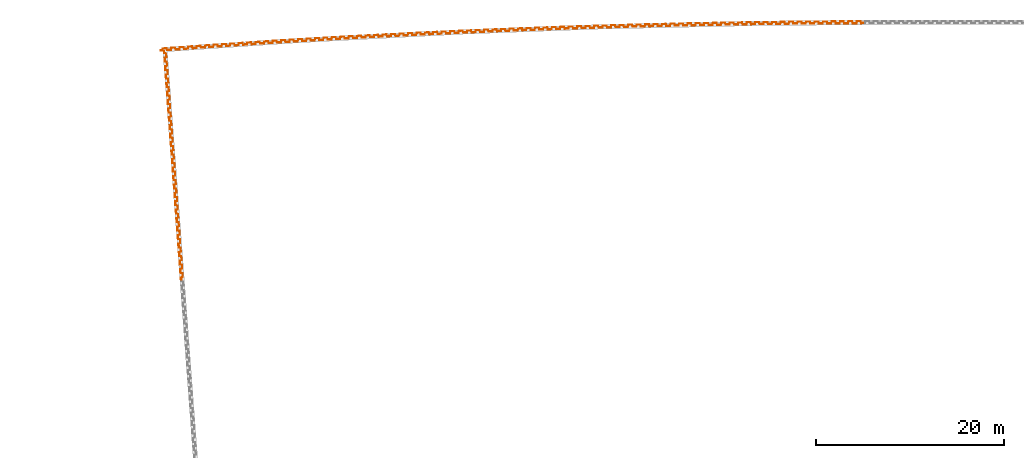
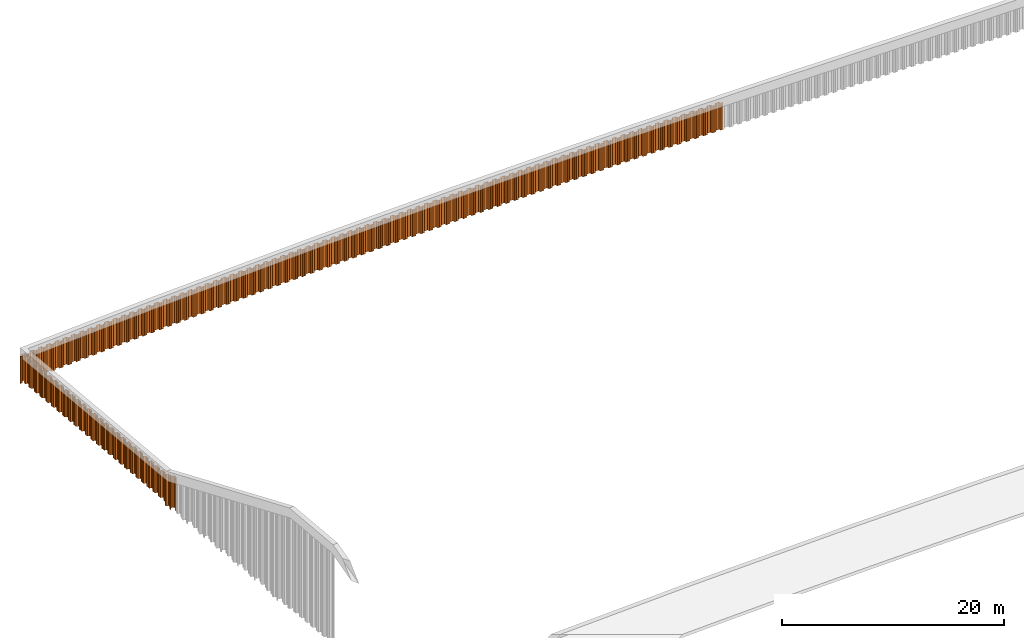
# One storey, part 8 of 15: 110 proxies.
"""IFC2X3 building model written with IfcOpenShell, lengths in millimetres."""

import ifcopenshell
import ifcopenshell.guid

model = None  # the IFC model being written
_history = None  # IfcOwnerHistory: only IFC2X3 demands one
_inside = {}  # id of a spatial element -> (the spatial element, [elements in it])
_under = {}  # id of a project, library or spatial element -> (it, [spatial elements below it])
_declared = {}  # id of a project -> (the project, [libraries it declares])
_typed = {}  # id of a type object -> (the type object, [elements of that type])
_made_of = {}  # id of a material, layer set ... -> (it, [elements and type objects made of it])


def new_model(schema):
    """Start an empty IFC model of exactly this schema.

    Asked for "IFC4X3", IfcOpenShell would pick the latest addendum, in which some entities
    have other attributes; the version numbers below select the first issue.
    IFC2X3 requires an IfcOwnerHistory on every rooted entity: one is made here for all.
    """
    global model, _history
    if schema == "IFC4X3":
        model = ifcopenshell.file(schema_version=(4, 3, 0, 0))
    else:
        model = ifcopenshell.file(schema=schema)
    _inside.clear()
    _under.clear()
    _declared.clear()
    _typed.clear()
    _made_of.clear()
    _history = None
    if model.schema == "IFC2X3":
        org = make("IfcOrganization", Name="unknown")
        user = make(
            "IfcPersonAndOrganization",
            ThePerson=make("IfcPerson", FamilyName="unknown"),
            TheOrganization=org,
        )
        app = make(
            "IfcApplication",
            ApplicationDeveloper=org,
            Version="unknown",
            ApplicationFullName="unknown",
            ApplicationIdentifier="unknown",
        )
        _history = make(
            "IfcOwnerHistory",
            OwningUser=user,
            OwningApplication=app,
            ChangeAction="ADDED",
            CreationDate=0,
        )
    return model


def make(cls, **values):
    """One entity of the class cls with the attributes given. An attribute that is None is left unset."""
    return model.create_entity(
        cls, **{name: value for name, value in values.items() if value is not None}
    )


def entity(cls, *values):
    """Any entity or typed value of the class cls, its attributes in the order of the schema. None: left unset."""
    e = model.create_entity(cls)
    for i, value in enumerate(values):
        if value is not None:
            e[i] = value
    return e


def rooted(cls, **values):
    """An entity with a GlobalId (a new one), such as an element, a storey or a relation."""
    return make(cls, GlobalId=ifcopenshell.guid.new(), OwnerHistory=_history, **values)


def si_unit(unit_type, name, prefix=None):
    """IfcSIUnit, for example si_unit("LENGTHUNIT", "METRE", prefix="MILLI")."""
    return make("IfcSIUnit", UnitType=unit_type, Prefix=prefix, Name=name)


def converted_unit(unit_type, name, factor, base, dimensions=None, offset=None):
    """IfcConversionBasedUnit, such as the inch: factor (a typed value) times the base unit."""
    return make(
        "IfcConversionBasedUnit"
        if offset is None
        else "IfcConversionBasedUnitWithOffset",
        ConversionOffset=offset,
        Dimensions=None
        if dimensions is None
        else entity("IfcDimensionalExponents", *dimensions),
        UnitType=unit_type,
        Name=name,
        ConversionFactor=make(
            "IfcMeasureWithUnit", ValueComponent=factor, UnitComponent=base
        ),
    )


def derived_unit(unit_type, elements):
    """IfcDerivedUnit: a product of units, each with its exponent."""
    return make(
        "IfcDerivedUnit",
        Elements=[
            make("IfcDerivedUnitElement", Unit=unit, Exponent=power)
            for unit, power in elements
        ],
        UnitType=unit_type,
    )


def assignment(units):
    """IfcUnitAssignment: the units of a project."""
    return None if units is None else make("IfcUnitAssignment", Units=units)


def point(xyz):
    """IfcCartesianPoint."""
    return None if xyz is None else make("IfcCartesianPoint", Coordinates=xyz)


def direction(xyz):
    """IfcDirection."""
    return None if xyz is None else make("IfcDirection", DirectionRatios=xyz)


def frame(location, z_axis=None, x_axis=None):
    """IfcAxis2Placement3D, a coordinate frame: its origin and axes. An axis left out is left unset."""
    return make(
        "IfcAxis2Placement3D",
        Location=point(location),
        Axis=direction(z_axis),
        RefDirection=direction(x_axis),
    )


def frame_2d(location, x_axis=None):
    """IfcAxis2Placement2D, a coordinate frame in the plane: its origin and x axis."""
    return make(
        "IfcAxis2Placement2D", Location=point(location), RefDirection=direction(x_axis)
    )


def origin():
    """The frame at (0, 0, 0) with its axes left unset."""
    return frame((0.0, 0.0, 0.0))


def place(relative_to, where):
    """IfcLocalPlacement: puts the frame where relative to a parent placement (None: the world)."""
    return make(
        "IfcLocalPlacement", PlacementRelTo=relative_to, RelativePlacement=where
    )


def context(
    kind, dimensions, precision=None, world=None, true_north=None, identifier=None
):
    """IfcGeometricRepresentationContext, for example the 3D "Model" context."""
    return make(
        "IfcGeometricRepresentationContext",
        ContextIdentifier=identifier,
        ContextType=kind,
        CoordinateSpaceDimension=dimensions,
        Precision=precision,
        WorldCoordinateSystem=world,
        TrueNorth=true_north,
    )


def subcontext(parent, identifier, kind, view, scale=None):
    """IfcGeometricRepresentationSubContext, for example "Body" below "Model"."""
    return make(
        "IfcGeometricRepresentationSubContext",
        ContextIdentifier=identifier,
        ContextType=kind,
        ParentContext=parent,
        TargetScale=scale,
        TargetView=view,
    )


def project(units=None, contexts=None):
    """IfcProject with its units and contexts."""
    return rooted(
        "IfcProject",
        Name="project",
        RepresentationContexts=contexts,
        UnitsInContext=assignment(units),
    )


def spatial(cls, under=None, at=None, **own):
    """A site, building, storey or space (cls), placed at a placement, below another one or the project."""
    s = rooted(cls, ObjectPlacement=at, **own)
    if under is not None:
        _under.setdefault(under.id(), (under, []))[1].append(s)
    return s


def polyline(points):
    """IfcPolyline through the points."""
    return make("IfcPolyline", Points=[point(p) for p in points])


def circle_curve(where, radius):
    """IfcCircle in the frame where."""
    return make("IfcCircle", Position=where, Radius=radius)


def parameter(value):
    """IfcParameterValue: where a trimmed curve begins or ends, as a parameter of its basis curve."""
    return model.create_entity("IfcParameterValue", value)


def trimmed(basis, trim1, trim2, sense, master):
    """IfcTrimmedCurve: the piece of a basis curve between two trims."""
    return make(
        "IfcTrimmedCurve",
        BasisCurve=basis,
        Trim1=trim1,
        Trim2=trim2,
        SenseAgreement=sense,
        MasterRepresentation=master,
    )


def segment(curve, same_sense, transition):
    """IfcCompositeCurveSegment."""
    return make(
        "IfcCompositeCurveSegment",
        Transition=transition,
        SameSense=same_sense,
        ParentCurve=curve,
    )


def composite_curve(segments, self_intersect=None):
    """IfcCompositeCurve: segments joined end to end."""
    return make("IfcCompositeCurve", Segments=segments, SelfIntersect=self_intersect)


def outline(outer, holes=None, kind="AREA"):
    """IfcArbitraryClosedProfileDef: a profile drawn as a closed curve; with holes, ...WithVoids."""
    if holes is None:
        return make("IfcArbitraryClosedProfileDef", ProfileType=kind, OuterCurve=outer)
    return make(
        "IfcArbitraryProfileDefWithVoids",
        ProfileType=kind,
        OuterCurve=outer,
        InnerCurves=holes,
    )


def extrude(swept, where, along, depth):
    """IfcExtrudedAreaSolid: the profile swept, set in the frame where, extruded along a direction by depth."""
    return make(
        "IfcExtrudedAreaSolid",
        SweptArea=swept,
        Position=where,
        ExtrudedDirection=direction(along),
        Depth=depth,
    )


def shape(context_of_items, identifier, shape_type, items):
    """IfcShapeRepresentation: the items that make up one representation, for example the "Body"."""
    return make(
        "IfcShapeRepresentation",
        ContextOfItems=context_of_items,
        RepresentationIdentifier=identifier,
        RepresentationType=shape_type,
        Items=items,
    )


def source(mapping_origin, context_of_items, identifier, shape_type, items):
    """IfcRepresentationMap: a shape defined once, which mapped items show again and again."""
    return make(
        "IfcRepresentationMap",
        MappingOrigin=mapping_origin,
        MappedRepresentation=shape(context_of_items, identifier, shape_type, items),
    )


def transform(
    local_origin,
    x_axis=None,
    y_axis=None,
    z_axis=None,
    scale=None,
    scale2=None,
    scale3=None,
    uniform=True,
):
    """IfcCartesianTransformationOperator3D, or its non-uniform kind. x_axis, y_axis, z_axis: its Axis1, 2, 3."""
    if uniform:
        return make(
            "IfcCartesianTransformationOperator3D",
            Axis1=direction(x_axis),
            Axis2=direction(y_axis),
            LocalOrigin=point(local_origin),
            Scale=scale,
            Axis3=direction(z_axis),
        )
    return make(
        "IfcCartesianTransformationOperator3DnonUniform",
        Axis1=direction(x_axis),
        Axis2=direction(y_axis),
        LocalOrigin=point(local_origin),
        Scale=scale,
        Axis3=direction(z_axis),
        Scale2=scale2,
        Scale3=scale3,
    )


def mapped(mapping_source, mapping_target):
    """IfcMappedItem: shows the shape of a source again, moved by a transform."""
    return make(
        "IfcMappedItem", MappingSource=mapping_source, MappingTarget=mapping_target
    )


def material(Name=None, Category=None):
    """IfcMaterial."""
    return make("IfcMaterial", Name=Name, Category=Category)


def made_of(thing, what):
    """Note that an element or type object is made of a material, layer set ...; save() writes the relation."""
    if what is not None:
        _made_of.setdefault(what.id(), (what, []))[1].append(thing)
    return thing


def type_object(cls, material=None, **own):
    """A type object (cls), such as IfcWallType, which elements share."""
    return made_of(rooted(cls, **own), material)


def type_shapes(of_type, sources):
    """Give a type object the sources (RepresentationMaps) that its elements show as mapped items."""
    of_type.RepresentationMaps = sources


def element(
    cls,
    number,
    at=None,
    inside=None,
    cuts=None,
    type_object=None,
    material=None,
    context=None,
    identifier="Body",
    shape_type=None,
    held_by="IfcProductDefinitionShape",
    body=None,
    shapes=None,
    **own,
):
    """One element of the class cls, such as IfcWall. Its Tag is "e" and its number.

    at: its placement. inside: the storey or other place that contains it. cuts: it is an
    opening in that element (IfcRelVoidsElement). A single representation is given by context,
    identifier, shape_type and body (its items); several are given by shapes. held_by: the class
    of the entity that holds the representations. save() writes the other relations.
    """
    e = rooted(cls, Tag="e%d" % number, ObjectPlacement=at, **own)
    if body is not None:
        shapes = [shape(context, identifier, shape_type, body)]
    if shapes is not None:
        e.Representation = make(held_by, Representations=shapes)
    if inside is not None:
        _inside.setdefault(inside.id(), (inside, []))[1].append(e)
    if cuts is not None:
        rooted(
            "IfcRelVoidsElement", RelatingBuildingElement=cuts, RelatedOpeningElement=e
        )
    if type_object is not None:
        _typed.setdefault(type_object.id(), (type_object, []))[1].append(e)
    return made_of(e, material)


def aggregate(whole, parts):
    """IfcRelAggregates: a whole, such as a stair, and the parts it consists of."""
    return rooted("IfcRelAggregates", RelatingObject=whole, RelatedObjects=parts)


def save(model, path):
    """Write the relations noted so far, then the file.

    IfcRelAggregates (storeys below a building ...), IfcRelContainedInSpatialStructure (elements
    in a storey), IfcRelDefinesByType, IfcRelAssociatesMaterial and IfcRelDeclares: one each for
    every whole, place, type object, material and project.
    """
    for whole, parts in _under.values():
        aggregate(whole, parts)
    for where, things in _inside.values():
        rooted(
            "IfcRelContainedInSpatialStructure",
            RelatedElements=things,
            RelatingStructure=where,
        )
    for kind, things in _typed.values():
        rooted("IfcRelDefinesByType", RelatedObjects=things, RelatingType=kind)
    for what, things in _made_of.values():
        rooted("IfcRelAssociatesMaterial", RelatedObjects=things, RelatingMaterial=what)
    for by, libraries in _declared.values():
        rooted("IfcRelDeclares", RelatingContext=by, RelatedDefinitions=libraries)
    model.write(path)


model = new_model("IFC2X3")

# Units and contexts
model_context = context("Model", 3, precision=0.01, world=origin(), true_north=direction((6.12303176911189e-17, 1.0)))
body_context = subcontext(model_context, "Body", "Model", "MODEL_VIEW")
ifc_project = project(units=[si_unit("LENGTHUNIT", "METRE", prefix="MILLI"), si_unit("AREAUNIT", "SQUARE_METRE"), si_unit("VOLUMEUNIT", "CUBIC_METRE"), converted_unit("PLANEANGLEUNIT", "DEGREE", entity("IfcRatioMeasure", 0.0174532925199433), si_unit("PLANEANGLEUNIT", "RADIAN"), dimensions=[0, 0, 0, 0, 0, 0, 0]), si_unit("MASSUNIT", "GRAM", prefix="KILO"), derived_unit("MASSDENSITYUNIT", [(si_unit("MASSUNIT", "GRAM", prefix="KILO"), 1), (si_unit("LENGTHUNIT", "METRE"), -3)]), derived_unit("MOMENTOFINERTIAUNIT", [(si_unit("LENGTHUNIT", "METRE"), 4)]), si_unit("TIMEUNIT", "SECOND"), si_unit("FREQUENCYUNIT", "HERTZ"), si_unit("THERMODYNAMICTEMPERATUREUNIT", "DEGREE_CELSIUS"), derived_unit("THERMALTRANSMITTANCEUNIT", [(si_unit("MASSUNIT", "GRAM", prefix="KILO"), 1), (si_unit("THERMODYNAMICTEMPERATUREUNIT", "KELVIN"), -1), (si_unit("TIMEUNIT", "SECOND"), -3)]), derived_unit("VOLUMETRICFLOWRATEUNIT", [(si_unit("LENGTHUNIT", "METRE"), 3), (si_unit("TIMEUNIT", "SECOND"), -1)]), si_unit("ELECTRICCURRENTUNIT", "AMPERE"), si_unit("ELECTRICVOLTAGEUNIT", "VOLT"), si_unit("POWERUNIT", "WATT"), si_unit("FORCEUNIT", "NEWTON", prefix="KILO"), si_unit("ILLUMINANCEUNIT", "LUX"), si_unit("LUMINOUSFLUXUNIT", "LUMEN"), si_unit("LUMINOUSINTENSITYUNIT", "CANDELA"), derived_unit("USERDEFINED", [(si_unit("MASSUNIT", "GRAM", prefix="KILO"), -1), (si_unit("LENGTHUNIT", "METRE"), -2), (si_unit("TIMEUNIT", "SECOND"), 3), (si_unit("LUMINOUSFLUXUNIT", "LUMEN"), 1)]), derived_unit("LINEARVELOCITYUNIT", [(si_unit("LENGTHUNIT", "METRE"), 1), (si_unit("TIMEUNIT", "SECOND"), -1)]), si_unit("PRESSUREUNIT", "PASCAL"), derived_unit("USERDEFINED", [(si_unit("LENGTHUNIT", "METRE"), -2), (si_unit("MASSUNIT", "GRAM", prefix="KILO"), 1), (si_unit("TIMEUNIT", "SECOND"), -2)]), derived_unit("LINEARFORCEUNIT", [(si_unit("MASSUNIT", "GRAM", prefix="KILO"), 1), (si_unit("LENGTHUNIT", "METRE"), 1), (si_unit("TIMEUNIT", "SECOND"), -2), (si_unit("LENGTHUNIT", "METRE"), -1)]), derived_unit("PLANARFORCEUNIT", [(si_unit("MASSUNIT", "GRAM", prefix="KILO"), 1), (si_unit("LENGTHUNIT", "METRE"), 1), (si_unit("TIMEUNIT", "SECOND"), -2), (si_unit("LENGTHUNIT", "METRE"), -2)])], contexts=[model_context])

# Site, building, storey
site_placement = place(None, origin())
site = spatial("IfcSite", under=ifc_project, at=site_placement, Name="Default", CompositionType="ELEMENT")
building_placement = place(site_placement, origin())
building = spatial("IfcBuilding", under=site, at=building_placement, CompositionType="ELEMENT")
storey_placement = place(building_placement, frame((0.0, 0.0, 9500.0)))
storey = spatial("IfcBuildingStorey", under=building, at=storey_placement, Name="AP+9.500", CompositionType="ELEMENT", Elevation=9500.0)

# Proxies
ifc_material = material(Name="<Unnamed>")
building_element_proxy_type_1 = type_object("IfcBuildingElementProxyType", Name="鋼矢板10H型:鋼矢板10H型", PredefinedType="NOTDEFINED", material=ifc_material)
shared_shape_1 = source(origin(), body_context, "Body", "SweptSolid", [
    extrude(outline(composite_curve([segment(trimmed(circle_curve(frame_2d((85.3662976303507, 306.644432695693), x_axis=(0.422618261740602, 0.906307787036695)), 13.885714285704), [parameter(24.9999999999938)], [parameter(90.0000000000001)], True, "PARAMETER"), True, "CONTINUOUS"), segment(polyline([(72.7815666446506, 312.512789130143), (9.8129512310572, 177.476157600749)]), True, "CONTINUOUS"), segment(trimmed(circle_curve(frame_2d((29.3891994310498, 168.347603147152), x_axis=(0.422618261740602, 0.906307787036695)), 21.6), [parameter(90.0000000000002)], [parameter(168.69006752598)], True, "PARAMETER"), True, "CONTINUOUS"), segment(polyline([(16.598697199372, 150.941769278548), (175.329723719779, 34.2998683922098)]), True, "CONTINUOUS"), segment(trimmed(circle_curve(frame_2d((168.93447260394, 25.596951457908), x_axis=(0.422618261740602, 0.906307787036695)), 10.7999999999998), [parameter(270.0)], [parameter(348.690067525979)], True, "PARAMETER"), False, "CONTINUOUS"), segment(polyline([(178.722596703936, 21.0326742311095), (18.2974003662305, -323.000269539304)]), True, "CONTINUOUS"), segment(trimmed(circle_curve(frame_2d((8.50927626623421, -318.435992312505), x_axis=(0.422618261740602, 0.906307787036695)), 10.8), [parameter(191.30993247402)], [parameter(269.999999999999)], True, "PARAMETER"), False, "CONTINUOUS"), segment(polyline([(5.95324328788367, -328.929166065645), (-185.429973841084, -282.310113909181)]), True, "CONTINUOUS"), segment(trimmed(circle_curve(frame_2d((-190.542039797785, -303.296461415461), x_axis=(0.422618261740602, 0.906307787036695)), 21.6000000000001), [parameter(11.3099324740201)], [parameter(90.0000000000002)], True, "PARAMETER"), True, "CONTINUOUS"), segment(polyline([(-210.118287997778, -294.167906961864), (-290.330886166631, -466.184378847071)]), True, "CONTINUOUS"), segment(trimmed(circle_curve(frame_2d((-270.754637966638, -475.312933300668), x_axis=(0.422618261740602, 0.906307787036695)), 21.6), [parameter(90.0000000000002)], [parameter(269.999999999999)], True, "PARAMETER"), True, "CONTINUOUS"), segment(polyline([(-251.178389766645, -484.441487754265), (-249.065298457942, -479.909948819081)]), True, "CONTINUOUS"), segment(polyline([(-249.065298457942, -479.909948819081), (-258.853422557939, -475.345671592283)]), True, "CONTINUOUS"), segment(polyline([(-258.853422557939, -475.345671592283), (-260.966513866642, -479.877210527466)]), True, "CONTINUOUS"), segment(trimmed(circle_curve(frame_2d((-270.754637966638, -475.312933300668), x_axis=(0.422618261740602, 0.906307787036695)), 10.8), [parameter(90.0000000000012)], [parameter(270.0)], True, "PARAMETER"), False, "CONTINUOUS"), segment(polyline([(-280.542762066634, -470.748656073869), (-200.330163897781, -298.732184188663)]), True, "CONTINUOUS"), segment(trimmed(circle_curve(frame_2d((-190.542039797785, -303.296461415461), x_axis=(0.422618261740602, 0.906307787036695)), 10.8), [parameter(11.3099324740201)], [parameter(89.9999999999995)], True, "PARAMETER"), False, "CONTINUOUS"), segment(polyline([(-187.986006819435, -292.803287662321), (3.39721030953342, -339.422339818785)]), True, "CONTINUOUS"), segment(trimmed(circle_curve(frame_2d((8.50927626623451, -318.435992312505), x_axis=(0.422618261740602, 0.906307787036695)), 21.6), [parameter(191.30993247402)], [parameter(270.0)], True, "PARAMETER"), True, "CONTINUOUS"), segment(polyline([(28.0855244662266, -327.564546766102), (188.510720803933, 16.4683970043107)]), True, "CONTINUOUS"), segment(trimmed(circle_curve(frame_2d((168.93447260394, 25.5969514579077), x_axis=(0.422618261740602, 0.906307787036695)), 21.6), [parameter(270.0)], [parameter(348.69006752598)], True, "PARAMETER"), True, "CONTINUOUS"), segment(polyline([(181.724974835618, 43.0027853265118), (22.9939483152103, 159.644686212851)]), True, "CONTINUOUS"), segment(trimmed(circle_curve(frame_2d((29.3891994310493, 168.347603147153), x_axis=(0.422618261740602, 0.906307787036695)), 10.7999999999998), [parameter(89.9999999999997)], [parameter(168.690067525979)], True, "PARAMETER"), False, "CONTINUOUS"), segment(polyline([(19.6010753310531, 172.911880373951), (82.5696907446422, 307.948511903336)]), True, "CONTINUOUS"), segment(trimmed(circle_curve(frame_2d((85.3662976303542, 306.64443269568), x_axis=(0.422618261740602, 0.906307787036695)), 3.08571428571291), [parameter(25.0000000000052)], [parameter(90.0000000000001)], True, "PARAMETER"), False, "CONTINUOUS"), segment(polyline([(85.3662976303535, 309.730146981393), (122.220231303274, 309.730146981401)]), True, "CONTINUOUS"), segment(trimmed(circle_curve(frame_2d((122.220231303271, 323.615861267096), x_axis=(0.422618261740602, 0.906307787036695)), 13.8857142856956), [parameter(205.000000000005)], [parameter(270.0)], True, "PARAMETER"), True, "CONTINUOUS"), segment(polyline([(134.804962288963, 317.747504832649), (141.079261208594, 331.202782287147)]), True, "CONTINUOUS"), segment(trimmed(circle_curve(frame_2d((121.503013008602, 340.331336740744), x_axis=(0.422618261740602, 0.906307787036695)), 21.6), [parameter(270.0)], [parameter(90.0000000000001)], True, "PARAMETER"), True, "CONTINUOUS"), segment(polyline([(101.926764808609, 349.459891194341), (99.8136734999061, 344.928352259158)]), True, "CONTINUOUS"), segment(polyline([(99.8136734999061, 344.928352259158), (109.601797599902, 340.364075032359)]), True, "CONTINUOUS"), segment(polyline([(109.601797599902, 340.364075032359), (111.714888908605, 344.895613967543)]), True, "CONTINUOUS"), segment(trimmed(circle_curve(frame_2d((121.503013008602, 340.331336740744), x_axis=(0.422618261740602, 0.906307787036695)), 10.8), [parameter(270.0)], [parameter(89.9999999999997)], True, "PARAMETER"), False, "CONTINUOUS"), segment(polyline([(131.291137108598, 335.767059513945), (125.01683818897, 322.311782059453)]), True, "CONTINUOUS"), segment(trimmed(circle_curve(frame_2d((122.220231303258, 323.615861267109), x_axis=(0.422618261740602, 0.906307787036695)), 3.08571428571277), [parameter(204.999999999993)], [parameter(270.0)], True, "PARAMETER"), False, "CONTINUOUS"), segment(polyline([(122.220231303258, 320.530146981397), (85.3662976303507, 320.530146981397)]), True, "CONTINUOUS")], self_intersect=False)), frame((95.205667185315, -48.8888888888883, -3000.0), z_axis=(0.0, 0.0, -1.0), x_axis=(0.4226182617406, 0.906307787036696, 0.0)), (0.0, 0.0, -1.0), 3000.0),
])
type_shapes(building_element_proxy_type_1, [shared_shape_1])
for number, where, z_axis, x_axis in (
    (1, (-93391.1801115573, 46864.5635881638, -650.0), (0.0, 0.0, 1.0), (0.997251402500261, 0.0740921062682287, 0.0)),
    (2, (-92493.6336582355, 46930.8611215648, -650.0), (0.0, 0.0, 1.0), (0.997314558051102, 0.0732370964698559, 0.0)),
    (3, (-91596.0252876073, 46996.3895214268, -650.0), (0.0, 0.0, 1.0), (0.997376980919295, 0.0723820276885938, 0.0)),
    (4, (-90698.3664745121, 47061.1479500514, -650.0), (0.0, 0.0, 1.0), (0.997438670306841, 0.0715269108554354, 0.0)),
    (5, (-89800.6470630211, 47125.1371400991, -650.0), (0.0, 0.0, 1.0), (0.997499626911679, 0.0706717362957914, 0.0)),
    (6, (-88902.8785293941, 47188.3562735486, -650.0), (0.0, 0.0, 1.0), (0.997559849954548, 0.0698165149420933, 0.0)),
    (7, (-88005.05071646, 47250.8060656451, -650.0), (0.0, 0.0, 1.0), (0.997619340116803, 0.0689612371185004, 0.0)),
    (8, (-87107.1751018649, 47312.4857180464, -650.0), (0.0, 0.0, 1.0), (0.997678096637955, 0.068105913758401, 0.0)),
    (9, (-86209.2415272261, 47373.3959285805, -650.0), (0.0, 0.0, 1.0), (0.997736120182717, 0.0672505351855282, 0.0)),
    (10, (-85311.2614715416, 47433.5359185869, -650.0), (0.0, 0.0, 1.0), (0.997793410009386, 0.0663951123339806, 0.0)),
    (11, (-84413.2247752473, 47492.9063684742, -650.0), (0.0, 0.0, 1.0), (0.997849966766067, 0.0655396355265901, 0.0)),
    (12, (-83515.1429186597, 47551.5065192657, -650.0), (0.0, 0.0, 1.0), (0.997905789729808, 0.0646841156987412, 0.0)),
    (13, (-82617.0057410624, 47609.3370339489, -650.0), (0.0, 0.0, 1.0), (0.997960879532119, 0.0638285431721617, 0.0)),
    (14, (-81718.8247240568, 47666.397173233, -650.0), (0.0, 0.0, 1.0), (0.998015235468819, 0.0629729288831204, 0.0)),
    (15, (-80820.5897058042, 47722.6875826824, -650.0), (0.0, 0.0, 1.0), (0.998068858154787, 0.0621172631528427, 0.0)),
    (16, (-79922.312169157, 47778.2075426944, -650.0), (0.0, 0.0, 1.0), (0.998121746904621, 0.0612615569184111, 0.0)),
    (17, (-79023.9819511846, 47832.9576814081, -650.0), (0.0, 0.0, 1.0), (0.9981739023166, 0.0604058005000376, 0.0)),
    (18, (-78125.6105359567, 47886.9372989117, -650.0), (0.0, 0.0, 1.0), (0.998225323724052, 0.059550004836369, 0.0)),
    (19, (-77227.1877594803, 47940.1470059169, -650.0), (0.0, 0.0, 1.0), (0.998276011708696, 0.0586941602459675, 0.0)),
    (20, (-76328.7251070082, 47992.5861222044, -650.0), (0.0, 0.0, 1.0), (0.9983259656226, 0.0578382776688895, 0.0)),
    (21, (-75430.2124135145, 48044.2552410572, -650.0), (0.0, 0.0, 1.0), (0.998375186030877, 0.0569823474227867, 0.0)),
    (22, (-74531.6611654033, 48095.1537019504, -650.0), (0.0, 0.0, 1.0), (0.998423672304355, 0.0561263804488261, 0.0)),
    (23, (-73633.0611966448, 48145.2820807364, -650.0), (0.0, 0.0, 1.0), (0.998471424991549, 0.0552703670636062, 0.0)),
    (24, (-72734.4239947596, 48194.6397365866, -650.0), (0.0, 0.0, 1.0), (0.998518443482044, 0.0544143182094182, 0.0)),
    (25, (-71835.7393927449, 48243.2272279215, -650.0), (0.0, 0.0, 1.0), (0.998564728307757, 0.0535582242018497, 0.0)),
    (26, (-70937.0188792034, 48291.0439336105, -650.0), (0.0, 0.0, 1.0), (0.998610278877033, 0.0527020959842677, 0.0)),
    (27, (-70038.2522861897, 48338.0903946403, -650.0), (0.0, 0.0, 1.0), (0.998655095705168, 0.0518459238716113, 0.0)),
    (28, (-69139.4511033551, 48384.3660095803, -650.0), (0.0, 0.0, 1.0), (0.9986991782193, 0.0509897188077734, 0.0)),
    (29, (-68240.6051618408, 48429.8713019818, -650.0), (0.0, 0.0, 1.0), (0.998742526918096, 0.050133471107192, 0.0)),
    (30, (-67341.7259523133, 48474.6056901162, -650.0), (0.0, 0.0, 1.0), (0.99878514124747, 0.049277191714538, 0.0)),
    (31, (-66442.8033050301, 48518.5696800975, -650.0), (0.0, 0.0, 1.0), (0.998827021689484, 0.0484208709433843, 0.0)),
    (32, (-65543.8487116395, 48561.7627099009, -650.0), (0.0, 0.0, 1.0), (0.998868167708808, 0.0475645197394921, 0.0)),
    (33, (-64644.8520015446, 48604.1852682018, -650.0), (0.0, 0.0, 1.0), (0.998908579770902, 0.0467081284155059, 0.0)),
    (34, (-63745.8246673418, 48645.8368126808, -650.0), (0.0, 0.0, 1.0), (0.998948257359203, 0.0458517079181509, 0.0)),
    (35, (-62846.7565376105, 48686.7178145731, -650.0), (0.0, 0.0, 1.0), (0.998987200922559, 0.0449952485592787, 0.0)),
    (36, (-61947.6591058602, 48726.8277512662, -650.0), (0.0, 0.0, 1.0), (0.999025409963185, 0.04413876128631, 0.0)),
    (37, (-61048.5221998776, 48766.1670765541, -650.0), (0.0, 0.0, 1.0), (0.999062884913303, 0.0432822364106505, 0.0)),
    (38, (-60149.3573140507, 48804.7352875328, -650.0), (0.0, 0.0, 1.0), (0.999099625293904, 0.0424256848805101, 0.0)),
    (39, (-59250.1542754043, 48842.5328205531, -650.0), (0.0, 0.0, 1.0), (0.999135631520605, 0.0415690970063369, 0.0)),
    (40, (-58350.9245791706, 48879.5591924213, -650.0), (0.0, 0.0, 1.0), (0.999170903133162, 0.0407124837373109, 0.0)),
    (41, (-57451.6580516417, 48915.8148220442, -650.0), (0.0, 0.0, 1.0), (0.999205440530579, 0.0398558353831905, 0.0)),
    (42, (-56552.366188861, 48951.2992459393, -650.0), (0.0, 0.0, 1.0), (0.999239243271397, 0.0389991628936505, 0.0)),
    (43, (-55653.0388164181, 48986.0128655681, -650.0), (0.0, 0.0, 1.0), (0.99927231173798, 0.0381424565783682, 0.0)),
    (44, (-54753.6874311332, 49019.9552371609, -650.0), (0.0, 0.0, 1.0), (0.999304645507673, 0.0372857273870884, 0.0)),
    (45, (-53854.3018579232, 49053.1267447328, -650.0), (0.0, 0.0, 1.0), (0.999336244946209, 0.0364289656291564, 0.0)),
    (46, (-52954.8935943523, 49085.526964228, -650.0), (0.0, 0.0, 1.0), (0.999367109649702, 0.035572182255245, 0.0)),
    (47, (-52055.4524646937, 49117.1562622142, -650.0), (0.0, 0.0, 1.0), (0.999397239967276, 0.0347153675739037, 0.0)),
    (48, (-51155.9899672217, 49148.0142343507, -650.0), (0.0, 0.0, 1.0), (0.999426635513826, 0.0338585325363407, 0.0)),
    (49, (-50256.495925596, 49178.1012297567, -650.0), (0.0, 0.0, 1.0), (0.999455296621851, 0.033001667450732, 0.0)),
    (50, (-49356.9818387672, 49207.4168638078, -650.0), (0.0, 0.0, 1.0), (0.99948322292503, 0.0321447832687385, 0.0)),
    (51, (-48457.4375298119, 49235.9614681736, -650.0), (0.0, 0.0, 1.0), (0.999510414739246, 0.0312878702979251, 0.0)),
    (52, (-47557.8744983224, 49263.7346779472, -650.0), (0.0, 0.0, 1.0), (0.999536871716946, 0.0304309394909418, 0.0)),
    (53, (-46658.2825668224, 49290.7368073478, -650.0), (0.0, 0.0, 1.0), (0.999562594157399, 0.029573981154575, 0.0)),
    (54, (-45758.6732355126, 49316.9675111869, -650.0), (0.0, 0.0, 1.0), (0.999587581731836, 0.0287170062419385, 0.0)),
    (55, (-44859.0363263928, 49342.4270862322, -650.0), (0.0, 0.0, 1.0), (0.999611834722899, 0.0278600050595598, 0.0)),
    (56, (-43959.3833402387, 49367.1152070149, -650.0), (0.0, 0.0, 1.0), (0.999635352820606, 0.0270029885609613, 0.0)),
    (57, (-43059.7040985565, 49391.0321528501, -650.0), (0.0, 0.0, 1.0), (0.999658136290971, 0.0261459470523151, 0.0)),
    (58, (-42160.0101026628, 49414.1776179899, -650.0), (0.0, 0.0, 1.0), (0.999680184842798, 0.0252888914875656, 0.0)),
    (59, (-41260.2911735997, 49436.551864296, -650.0), (0.0, 0.0, 1.0), (0.999701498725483, 0.0244318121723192, 0.0)),
    (60, (-40360.5588131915, 49458.1546057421, -650.0), (0.0, 0.0, 1.0), (0.999722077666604, 0.023574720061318, 0.0)),
    (61, (-39460.8028420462, 49478.9860867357, -650.0), (0.0, 0.0, 1.0), (0.999741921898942, 0.0227176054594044, 0.0)),
    (62, (-38561.0347624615, 49499.0460409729, -650.0), (0.0, 0.0, 1.0), (0.999761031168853, 0.0218604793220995, 0.0)),
    (63, (-37661.2443946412, 49518.3346954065, -650.0), (0.0, 0.0, 1.0), (0.9997794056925, 0.0210033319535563, 0.0)),
    (64, (-36761.4432413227, 49536.8518034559, -650.0), (0.0, 0.0, 1.0), (0.999797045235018, 0.0201461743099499, 0.0)),
    (65, (-35861.6211223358, 49554.5975746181, -650.0), (0.0, 0.0, 1.0), (0.999813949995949, 0.019288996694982, 0.0)),
    (66, (-34961.7895408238, 49571.5717820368, -650.0), (0.0, 0.0, 1.0), (0.999830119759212, 0.0184318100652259, 0.0)),
    (67, (-34061.9383162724, 49587.7746177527, -650.0), (0.0, 0.0, 1.0), (0.999845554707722, 0.0175746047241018, 0.0)),
    (68, (-33162.0789521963, 49603.205874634, -650.0), (0.0, 0.0, 1.0), (0.999860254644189, 0.0167173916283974, 0.0)),
    (69, (-32262.201267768, 49617.8657272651, -650.0), (0.0, 0.0, 1.0), (0.999874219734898, 0.0158601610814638, 0.0)),
    (70, (-31362.3167668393, 49631.7539882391, -650.0), (0.0, 0.0, 1.0), (0.999887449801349, 0.0150029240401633, 0.0)),
    (71, (-30462.4152682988, 49644.8708146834, -650.0), (0.0, 0.0, 1.0), (0.999899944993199, 0.0141456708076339, 0.0)),
    (72, (-29562.5082763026, 49657.2160389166, -650.0), (0.0, 0.0, 1.0), (0.999911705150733, 0.0132884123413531, 0.0)),
    (73, (-28662.5856094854, 49668.7898006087, -650.0), (0.0, 0.0, 1.0), (0.999922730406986, 0.0124311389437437, 0.0)),
    (74, (-27762.6587722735, 49679.5919518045, -650.0), (0.0, 0.0, 1.0), (0.999933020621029, 0.0115738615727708, 0.0)),
    (75, (-26862.7175830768, 49689.6226147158, -650.0), (0.0, 0.0, 1.0), (0.999942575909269, 0.0107165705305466, 0.0)),
    (76, (-25962.7735465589, 49698.8816611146, -650.0), (0.0, 0.0, 1.0), (0.999951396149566, 0.00985927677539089, 0.0)),
    (77, (-25062.8164809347, 49707.3691957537, -650.0), (0.0, 0.0, 1.0), (0.9999594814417, 0.00900197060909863, 0.0)),
    (78, (-24162.8578910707, 49715.0851101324, -650.0), (0.0, 0.0, 1.0), (0.999966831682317, 0.00814466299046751, 0.0)),
    (79, (-23262.8875950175, 49722.0294915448, -650.0), (0.0, 0.0, 1.0), (0.999973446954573, 0.00728734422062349, 0.0)),
    (80, (-22362.9170978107, 49728.2022512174, -650.0), (0.0, 0.0, 1.0), (0.999979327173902, 0.0064300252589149, 0.0)),
    (81, (-21462.9362173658, 49733.6034589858, -650.0), (0.0, 0.0, 1.0), (0.999984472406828, 0.00557269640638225, 0.0)),
    (82, (-20562.9564588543, 49738.2330458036, -650.0), (0.0, 0.0, 1.0), (0.999988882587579, 0.00471536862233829, 0.0)),
    (83, (-19662.9676400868, 49742.0910640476, -650.0), (0.0, 0.0, 1.0), (0.999992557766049, 0.00385803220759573, 0.0)),
    (84, (-93340.1932935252, 46221.6692459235, -650.0), (0.0, 0.0, 1.0), (0.0743258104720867, -0.997234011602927, 0.0)),
    (85, (-93273.3000641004, 45324.1586354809, -650.0), (0.0, 0.0, 1.0), (0.0743258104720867, -0.997234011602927, 0.0)),
    (86, (-93206.4068346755, 44426.6480250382, -650.0), (0.0, 0.0, 1.0), (0.0743258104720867, -0.997234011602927, 0.0)),
    (87, (-93139.5136052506, 43529.1374145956, -650.0), (0.0, 0.0, 1.0), (0.0743258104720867, -0.997234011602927, 0.0)),
    (88, (-93072.6203758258, 42631.626804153, -650.0), (0.0, 0.0, 1.0), (0.0743258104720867, -0.997234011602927, 0.0)),
    (89, (-93005.7271464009, 41734.1161937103, -650.0), (0.0, 0.0, 1.0), (0.0743258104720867, -0.997234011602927, 0.0)),
    (90, (-92938.8339169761, 40836.6055832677, -650.0), (0.0, 0.0, 1.0), (0.0743258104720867, -0.997234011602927, 0.0)),
    (91, (-92871.9406875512, 39939.094972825, -650.0), (0.0, 0.0, 1.0), (0.0743258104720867, -0.997234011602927, 0.0)),
    (92, (-92805.0474581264, 39041.5843623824, -650.0), (0.0, 0.0, 1.0), (0.0743258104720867, -0.997234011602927, 0.0)),
    (93, (-92738.1542287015, 38144.0737519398, -650.0), (0.0, 0.0, 1.0), (0.0743258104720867, -0.997234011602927, 0.0)),
    (94, (-92671.2609992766, 37246.5631414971, -650.0), (0.0, 0.0, 1.0), (0.0743258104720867, -0.997234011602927, 0.0)),
    (95, (-92604.3677698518, 36349.0525310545, -650.0), (0.0, 0.0, 1.0), (0.0743258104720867, -0.997234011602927, 0.0)),
    (96, (-92537.4745404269, 35451.5419206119, -650.0), (0.0, 0.0, 1.0), (0.0743258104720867, -0.997234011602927, 0.0)),
    (97, (-92470.581311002, 34554.0313101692, -650.0), (0.0, 0.0, 1.0), (0.0743258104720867, -0.997234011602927, 0.0)),
    (98, (-92403.6880815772, 33656.5206997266, -650.0), (0.0, 0.0, 1.0), (0.0743258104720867, -0.997234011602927, 0.0)),
    (99, (-92336.7948521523, 32759.0100892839, -650.0), (0.0, 0.0, 1.0), (0.0743258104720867, -0.997234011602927, 0.0)),
    (100, (-92269.9016227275, 31861.4994788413, -650.0), (0.0, 0.0, 1.0), (0.0743258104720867, -0.997234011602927, 0.0)),
    (101, (-92203.0083933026, 30963.9888683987, -650.0), (0.0, 0.0, 1.0), (0.0743258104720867, -0.997234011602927, 0.0)),
    (102, (-92136.1151638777, 30066.478257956, -650.0), (0.0, 0.0, 1.0), (0.0743258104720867, -0.997234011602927, 0.0)),
    (103, (-92069.2219344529, 29168.9676475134, -650.0), (0.0, 0.0, 1.0), (0.0743258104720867, -0.997234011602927, 0.0)),
    (104, (-92002.328705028, 28271.4570370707, -650.0), (0.0, 0.0, 1.0), (0.0743258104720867, -0.997234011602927, 0.0)),
    (105, (-91935.4354756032, 27373.9464266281, -650.0), (0.0, 0.0, 1.0), (0.0743258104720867, -0.997234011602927, 0.0)),
    (106, (-91868.5422461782, 26476.4358161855, -650.0), (0.0, 0.0, 1.0), (0.0743258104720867, -0.997234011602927, 0.0)),
    (107, (-91801.6490167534, 25578.9252057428, -650.0), (0.0, 0.0, 1.0), (0.0743258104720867, -0.997234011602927, 0.0)),
    (108, (-91734.7557873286, 24681.4145953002, -650.0), (0.0, 0.0, 1.0), (0.0743258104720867, -0.997234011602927, 0.0)),
):
    element("IfcBuildingElementProxy", number, at=place(storey_placement, frame(where, z_axis=z_axis, x_axis=x_axis)), inside=storey, type_object=building_element_proxy_type_1, material=ifc_material, Name="鋼矢板10H型:鋼矢板10H型", ObjectType="鋼矢板10H型:鋼矢板10H型", context=body_context, shape_type="MappedRepresentation", body=[
        mapped(shared_shape_1, transform((0.0, 0.0, 0.0), scale=1.0)),
    ])
building_element_proxy_type_2 = type_object("IfcBuildingElementProxyType", Name="鋼矢板10H型:鋼矢板10H型", PredefinedType="NOTDEFINED", material=ifc_material)
shared_shape_2 = source(origin(), body_context, "Body", "SweptSolid", [
    extrude(outline(composite_curve([segment(trimmed(circle_curve(frame_2d((85.3662976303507, 306.644432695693), x_axis=(0.422618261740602, 0.906307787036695)), 13.885714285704), [parameter(24.9999999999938)], [parameter(90.0000000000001)], True, "PARAMETER"), True, "CONTINUOUS"), segment(polyline([(72.7815666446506, 312.512789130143), (9.8129512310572, 177.476157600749)]), True, "CONTINUOUS"), segment(trimmed(circle_curve(frame_2d((29.3891994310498, 168.347603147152), x_axis=(0.422618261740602, 0.906307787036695)), 21.6), [parameter(90.0000000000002)], [parameter(168.69006752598)], True, "PARAMETER"), True, "CONTINUOUS"), segment(polyline([(16.598697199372, 150.941769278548), (175.329723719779, 34.2998683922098)]), True, "CONTINUOUS"), segment(trimmed(circle_curve(frame_2d((168.93447260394, 25.596951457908), x_axis=(0.422618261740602, 0.906307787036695)), 10.7999999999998), [parameter(270.0)], [parameter(348.690067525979)], True, "PARAMETER"), False, "CONTINUOUS"), segment(polyline([(178.722596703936, 21.0326742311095), (18.2974003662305, -323.000269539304)]), True, "CONTINUOUS"), segment(trimmed(circle_curve(frame_2d((8.50927626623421, -318.435992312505), x_axis=(0.422618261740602, 0.906307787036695)), 10.8), [parameter(191.30993247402)], [parameter(269.999999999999)], True, "PARAMETER"), False, "CONTINUOUS"), segment(polyline([(5.95324328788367, -328.929166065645), (-185.429973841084, -282.310113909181)]), True, "CONTINUOUS"), segment(trimmed(circle_curve(frame_2d((-190.542039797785, -303.296461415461), x_axis=(0.422618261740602, 0.906307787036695)), 21.6000000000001), [parameter(11.3099324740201)], [parameter(90.0000000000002)], True, "PARAMETER"), True, "CONTINUOUS"), segment(polyline([(-210.118287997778, -294.167906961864), (-290.330886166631, -466.184378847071)]), True, "CONTINUOUS"), segment(trimmed(circle_curve(frame_2d((-270.754637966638, -475.312933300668), x_axis=(0.422618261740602, 0.906307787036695)), 21.6), [parameter(90.0000000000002)], [parameter(269.999999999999)], True, "PARAMETER"), True, "CONTINUOUS"), segment(polyline([(-251.178389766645, -484.441487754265), (-249.065298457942, -479.909948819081)]), True, "CONTINUOUS"), segment(polyline([(-249.065298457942, -479.909948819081), (-258.853422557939, -475.345671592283)]), True, "CONTINUOUS"), segment(polyline([(-258.853422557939, -475.345671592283), (-260.966513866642, -479.877210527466)]), True, "CONTINUOUS"), segment(trimmed(circle_curve(frame_2d((-270.754637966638, -475.312933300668), x_axis=(0.422618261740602, 0.906307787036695)), 10.8), [parameter(90.0000000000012)], [parameter(270.0)], True, "PARAMETER"), False, "CONTINUOUS"), segment(polyline([(-280.542762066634, -470.748656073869), (-200.330163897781, -298.732184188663)]), True, "CONTINUOUS"), segment(trimmed(circle_curve(frame_2d((-190.542039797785, -303.296461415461), x_axis=(0.422618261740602, 0.906307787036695)), 10.8), [parameter(11.3099324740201)], [parameter(89.9999999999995)], True, "PARAMETER"), False, "CONTINUOUS"), segment(polyline([(-187.986006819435, -292.803287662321), (3.39721030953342, -339.422339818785)]), True, "CONTINUOUS"), segment(trimmed(circle_curve(frame_2d((8.50927626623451, -318.435992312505), x_axis=(0.422618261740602, 0.906307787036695)), 21.6), [parameter(191.30993247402)], [parameter(270.0)], True, "PARAMETER"), True, "CONTINUOUS"), segment(polyline([(28.0855244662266, -327.564546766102), (188.510720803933, 16.4683970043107)]), True, "CONTINUOUS"), segment(trimmed(circle_curve(frame_2d((168.93447260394, 25.5969514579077), x_axis=(0.422618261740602, 0.906307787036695)), 21.6), [parameter(270.0)], [parameter(348.69006752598)], True, "PARAMETER"), True, "CONTINUOUS"), segment(polyline([(181.724974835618, 43.0027853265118), (22.9939483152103, 159.644686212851)]), True, "CONTINUOUS"), segment(trimmed(circle_curve(frame_2d((29.3891994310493, 168.347603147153), x_axis=(0.422618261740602, 0.906307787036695)), 10.7999999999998), [parameter(89.9999999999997)], [parameter(168.690067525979)], True, "PARAMETER"), False, "CONTINUOUS"), segment(polyline([(19.6010753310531, 172.911880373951), (82.5696907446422, 307.948511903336)]), True, "CONTINUOUS"), segment(trimmed(circle_curve(frame_2d((85.3662976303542, 306.64443269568), x_axis=(0.422618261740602, 0.906307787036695)), 3.08571428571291), [parameter(25.0000000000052)], [parameter(90.0000000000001)], True, "PARAMETER"), False, "CONTINUOUS"), segment(polyline([(85.3662976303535, 309.730146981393), (122.220231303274, 309.730146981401)]), True, "CONTINUOUS"), segment(trimmed(circle_curve(frame_2d((122.220231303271, 323.615861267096), x_axis=(0.422618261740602, 0.906307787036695)), 13.8857142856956), [parameter(205.000000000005)], [parameter(270.0)], True, "PARAMETER"), True, "CONTINUOUS"), segment(polyline([(134.804962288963, 317.747504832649), (141.079261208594, 331.202782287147)]), True, "CONTINUOUS"), segment(trimmed(circle_curve(frame_2d((121.503013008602, 340.331336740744), x_axis=(0.422618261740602, 0.906307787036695)), 21.6), [parameter(270.0)], [parameter(90.0000000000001)], True, "PARAMETER"), True, "CONTINUOUS"), segment(polyline([(101.926764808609, 349.459891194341), (99.8136734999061, 344.928352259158)]), True, "CONTINUOUS"), segment(polyline([(99.8136734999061, 344.928352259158), (109.601797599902, 340.364075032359)]), True, "CONTINUOUS"), segment(polyline([(109.601797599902, 340.364075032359), (111.714888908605, 344.895613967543)]), True, "CONTINUOUS"), segment(trimmed(circle_curve(frame_2d((121.503013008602, 340.331336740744), x_axis=(0.422618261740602, 0.906307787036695)), 10.8), [parameter(270.0)], [parameter(89.9999999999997)], True, "PARAMETER"), False, "CONTINUOUS"), segment(polyline([(131.291137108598, 335.767059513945), (125.01683818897, 322.311782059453)]), True, "CONTINUOUS"), segment(trimmed(circle_curve(frame_2d((122.220231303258, 323.615861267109), x_axis=(0.422618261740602, 0.906307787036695)), 3.08571428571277), [parameter(204.999999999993)], [parameter(270.0)], True, "PARAMETER"), False, "CONTINUOUS"), segment(polyline([(122.220231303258, 320.530146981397), (85.3662976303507, 320.530146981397)]), True, "CONTINUOUS")], self_intersect=False)), frame((95.205667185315, -48.8888888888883, -3500.0), z_axis=(0.0, 0.0, -1.0), x_axis=(0.4226182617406, 0.906307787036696, 0.0)), (0.0, 0.0, -1.0), 3500.0),
])
type_shapes(building_element_proxy_type_2, [shared_shape_2])
for number, where, z_axis, x_axis in (
    (109, (-91667.8625579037, 23783.9039848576, -535.122371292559), (0.0, 0.0, 1.0), (0.0743258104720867, -0.997234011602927, 0.0)),
    (110, (-91600.9693284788, 22886.3933744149, -198.978346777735), (0.0, 0.0, 1.0), (0.0743258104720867, -0.997234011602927, 0.0)),
):
    element("IfcBuildingElementProxy", number, at=place(storey_placement, frame(where, z_axis=z_axis, x_axis=x_axis)), inside=storey, type_object=building_element_proxy_type_2, material=ifc_material, Name="鋼矢板10H型:鋼矢板10H型", ObjectType="鋼矢板10H型:鋼矢板10H型", context=body_context, shape_type="MappedRepresentation", body=[
        mapped(shared_shape_2, transform((0.0, 0.0, 0.0), scale=1.0)),
    ])

save(model, "model.ifc")
